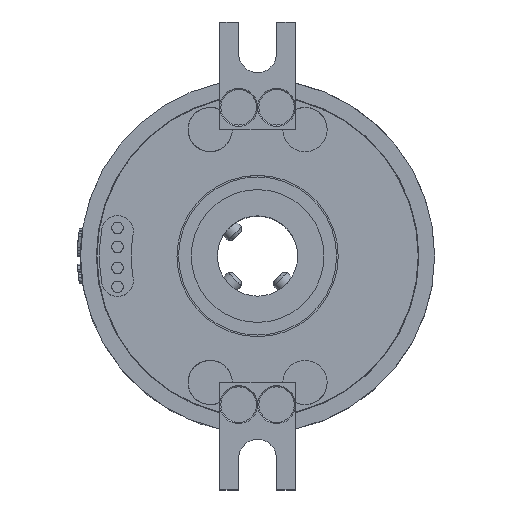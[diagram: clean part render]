
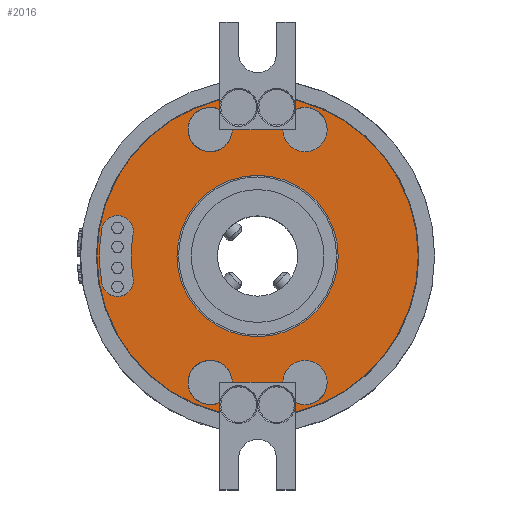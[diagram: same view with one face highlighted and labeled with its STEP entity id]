
A CAD part, top view. The second image highlights one B-rep face of the part: STEP entity #2016.
In plain terms, the highlighted planar face has unit normal (0, 0, 1).
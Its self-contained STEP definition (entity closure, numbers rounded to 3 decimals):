
#284=FACE_BOUND('',#5085,.T.);
#285=FACE_BOUND('',#5086,.T.);
#286=FACE_BOUND('',#5087,.T.);
#549=CIRCLE('',#17068,3.5);
#550=CIRCLE('',#17070,12.75);
#552=CIRCLE('',#17073,20.);
#554=CIRCLE('',#17076,2.5);
#556=CIRCLE('',#17079,25.);
#558=CIRCLE('',#17082,2.5);
#560=CIRCLE('',#17085,25.4);
#561=CIRCLE('',#17086,25.4);
#563=CIRCLE('',#17089,3.5);
#565=CIRCLE('',#17092,3.5);
#567=CIRCLE('',#17095,3.5);
#991=PLANE('',#17097);
#1245=LINE('',#33815,#3307);
#1249=LINE('',#33823,#3311);
#1253=LINE('',#33831,#3315);
#1277=LINE('',#33900,#3339);
#1281=LINE('',#33908,#3343);
#1285=LINE('',#33916,#3347);
#2016=ADVANCED_FACE('',(#284,#285,#286),#991,.T.);
#3307=VECTOR('',#18761,1.);
#3311=VECTOR('',#18767,1.);
#3315=VECTOR('',#18773,1.);
#3339=VECTOR('',#18845,1.);
#3343=VECTOR('',#18851,1.);
#3347=VECTOR('',#18857,1.);
#5085=EDGE_LOOP('',(#8133,#8134,#8135,#8136,#8137,#8138,#8139,#8140,#8141,
#8142,#8143,#8144));
#5086=EDGE_LOOP('',(#8145));
#5087=EDGE_LOOP('',(#8146,#8147,#8148,#8149));
#8133=ORIENTED_EDGE('',*,*,#13713,.F.);
#8134=ORIENTED_EDGE('',*,*,#13798,.F.);
#8135=ORIENTED_EDGE('',*,*,#13709,.F.);
#8136=ORIENTED_EDGE('',*,*,#13793,.T.);
#8137=ORIENTED_EDGE('',*,*,#13760,.F.);
#8138=ORIENTED_EDGE('',*,*,#13800,.F.);
#8139=ORIENTED_EDGE('',*,*,#13756,.F.);
#8140=ORIENTED_EDGE('',*,*,#13796,.T.);
#8141=ORIENTED_EDGE('',*,*,#13752,.F.);
#8142=ORIENTED_EDGE('',*,*,#13794,.T.);
#8143=ORIENTED_EDGE('',*,*,#13717,.F.);
#8144=ORIENTED_EDGE('',*,*,#13778,.F.);
#8145=ORIENTED_EDGE('',*,*,#13779,.F.);
#8146=ORIENTED_EDGE('',*,*,#13782,.F.);
#8147=ORIENTED_EDGE('',*,*,#13786,.F.);
#8148=ORIENTED_EDGE('',*,*,#13789,.F.);
#8149=ORIENTED_EDGE('',*,*,#13791,.F.);
#11465=VERTEX_POINT('',#33758);
#11467=VERTEX_POINT('',#33762);
#11469=VERTEX_POINT('',#33767);
#11471=VERTEX_POINT('',#33771);
#11488=VERTEX_POINT('',#33816);
#11490=VERTEX_POINT('',#33822);
#11491=VERTEX_POINT('',#33824);
#11493=VERTEX_POINT('',#33830);
#11515=VERTEX_POINT('',#33901);
#11517=VERTEX_POINT('',#33907);
#11518=VERTEX_POINT('',#33909);
#11520=VERTEX_POINT('',#33915);
#11529=VERTEX_POINT('',#33957);
#11532=VERTEX_POINT('',#33966);
#11533=VERTEX_POINT('',#33968);
#11535=VERTEX_POINT('',#33974);
#11537=VERTEX_POINT('',#33983);
#13709=EDGE_CURVE('',#11465,#11488,#1245,.T.);
#13713=EDGE_CURVE('',#11490,#11491,#1249,.T.);
#13717=EDGE_CURVE('',#11493,#11467,#1253,.T.);
#13752=EDGE_CURVE('',#11469,#11515,#1277,.T.);
#13756=EDGE_CURVE('',#11517,#11518,#1281,.T.);
#13760=EDGE_CURVE('',#11520,#11471,#1285,.T.);
#13778=EDGE_CURVE('',#11491,#11493,#549,.T.);
#13779=EDGE_CURVE('',#11529,#11529,#550,.T.);
#13782=EDGE_CURVE('',#11532,#11533,#552,.T.);
#13786=EDGE_CURVE('',#11535,#11532,#554,.T.);
#13789=EDGE_CURVE('',#11537,#11535,#556,.T.);
#13791=EDGE_CURVE('',#11533,#11537,#558,.T.);
#13793=EDGE_CURVE('',#11465,#11471,#560,.T.);
#13794=EDGE_CURVE('',#11469,#11467,#561,.T.);
#13796=EDGE_CURVE('',#11517,#11515,#563,.T.);
#13798=EDGE_CURVE('',#11488,#11490,#565,.T.);
#13800=EDGE_CURVE('',#11518,#11520,#567,.T.);
#17068=AXIS2_PLACEMENT_3D('',#33954,#18905,#18906);
#17070=AXIS2_PLACEMENT_3D('',#33956,#18909,#18910);
#17073=AXIS2_PLACEMENT_3D('',#33967,#18915,#18916);
#17076=AXIS2_PLACEMENT_3D('',#33975,#18923,#18924);
#17079=AXIS2_PLACEMENT_3D('',#33984,#18929,#18930);
#17082=AXIS2_PLACEMENT_3D('',#33987,#18935,#18936);
#17085=AXIS2_PLACEMENT_3D('',#33991,#18941,#18942);
#17086=AXIS2_PLACEMENT_3D('',#33992,#18943,#18944);
#17089=AXIS2_PLACEMENT_3D('',#33996,#18949,#18950);
#17092=AXIS2_PLACEMENT_3D('',#34000,#18955,#18956);
#17095=AXIS2_PLACEMENT_3D('',#34004,#18961,#18962);
#17097=AXIS2_PLACEMENT_3D('',#34006,#18965,#18966);
#18761=DIRECTION('',(0.,1.,0.));
#18767=DIRECTION('',(-1.,0.,0.));
#18773=DIRECTION('',(0.,-1.,0.));
#18845=DIRECTION('',(0.,-1.,0.));
#18851=DIRECTION('',(1.,0.,0.));
#18857=DIRECTION('',(0.,1.,0.));
#18905=DIRECTION('',(0.,0.,1.));
#18906=DIRECTION('',(1.,0.,0.));
#18909=DIRECTION('',(0.,0.,1.));
#18910=DIRECTION('',(1.,0.,0.));
#18915=DIRECTION('',(0.,0.,-1.));
#18916=DIRECTION('',(1.,0.,0.));
#18923=DIRECTION('',(0.,0.,1.));
#18924=DIRECTION('',(1.,0.,0.));
#18929=DIRECTION('',(0.,0.,1.));
#18930=DIRECTION('',(1.,0.,0.));
#18935=DIRECTION('',(0.,0.,1.));
#18936=DIRECTION('',(1.,0.,0.));
#18941=DIRECTION('',(0.,0.,1.));
#18942=DIRECTION('',(1.,0.,0.));
#18943=DIRECTION('',(0.,0.,1.));
#18944=DIRECTION('',(1.,0.,0.));
#18949=DIRECTION('',(0.,0.,-1.));
#18950=DIRECTION('',(1.,0.,0.));
#18955=DIRECTION('',(0.,0.,1.));
#18956=DIRECTION('',(1.,0.,0.));
#18961=DIRECTION('',(0.,0.,1.));
#18962=DIRECTION('',(1.,0.,0.));
#18965=DIRECTION('',(0.,0.,1.));
#18966=DIRECTION('',(1.,0.,0.));
#33758=CARTESIAN_POINT('',(6.,-24.681,40.6));
#33762=CARTESIAN_POINT('',(-6.,-24.681,40.6));
#33767=CARTESIAN_POINT('',(-6.,24.681,40.6));
#33771=CARTESIAN_POINT('',(6.,24.681,40.6));
#33815=CARTESIAN_POINT('',(6.,-37.,40.6));
#33816=CARTESIAN_POINT('',(6.,-23.162,40.6));
#33822=CARTESIAN_POINT('',(4.,-20.,40.6));
#33823=CARTESIAN_POINT('',(0.,-20.,40.6));
#33824=CARTESIAN_POINT('',(-4.,-20.,40.6));
#33830=CARTESIAN_POINT('',(-6.,-23.162,40.6));
#33831=CARTESIAN_POINT('',(-6.,-20.,40.6));
#33900=CARTESIAN_POINT('',(-6.,37.,40.6));
#33901=CARTESIAN_POINT('',(-6.,23.162,40.6));
#33907=CARTESIAN_POINT('',(-4.,20.,40.6));
#33908=CARTESIAN_POINT('',(0.,20.,40.6));
#33909=CARTESIAN_POINT('',(4.,20.,40.6));
#33915=CARTESIAN_POINT('',(6.,23.162,40.6));
#33916=CARTESIAN_POINT('',(6.,20.,40.6));
#33954=CARTESIAN_POINT('',(-7.5,-20.,40.6));
#33956=CARTESIAN_POINT('',(0.,0.,
40.6));
#33957=CARTESIAN_POINT('',(12.75,0.,40.6));
#33966=CARTESIAN_POINT('',(-19.696,-3.473,40.6));
#33967=CARTESIAN_POINT('',(0.,0.002,40.6));
#33968=CARTESIAN_POINT('',(-19.696,3.473,40.6));
#33974=CARTESIAN_POINT('',(-24.62,-4.341,40.6));
#33975=CARTESIAN_POINT('',(-22.158,-3.907,40.6));
#33983=CARTESIAN_POINT('',(-24.621,4.341,40.6));
#33984=CARTESIAN_POINT('',(0.,0.002,40.6));
#33987=CARTESIAN_POINT('',(-22.158,3.907,40.6));
#33991=CARTESIAN_POINT('',(0.,0.,
40.6));
#33992=CARTESIAN_POINT('',(0.,0.,
40.6));
#33996=CARTESIAN_POINT('',(-7.5,20.,40.6));
#34000=CARTESIAN_POINT('',(7.5,-20.,40.6));
#34004=CARTESIAN_POINT('',(7.5,20.,40.6));
#34006=CARTESIAN_POINT('',(0.,0.,
40.6));
